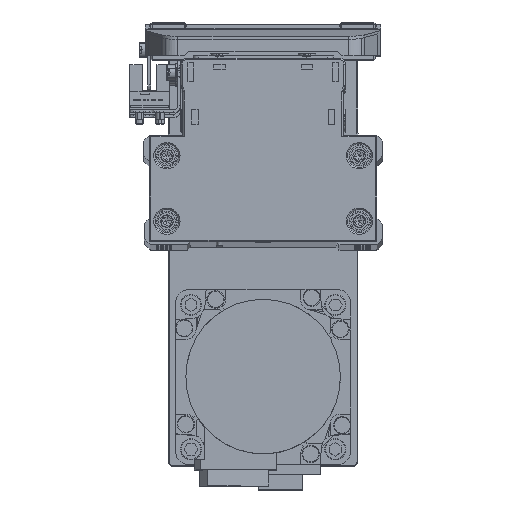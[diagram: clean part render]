
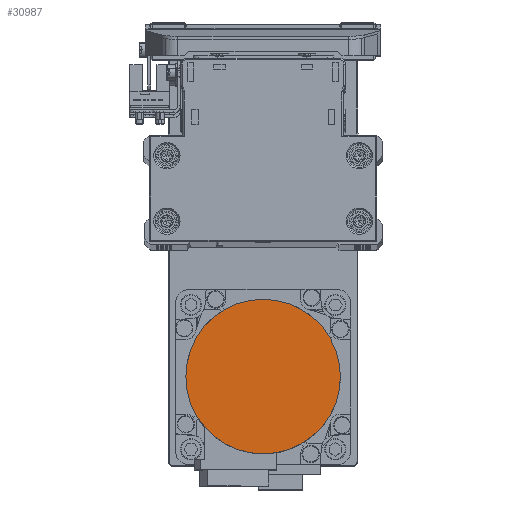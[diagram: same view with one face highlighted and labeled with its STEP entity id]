
A CAD part, top view. The second image highlights one B-rep face of the part: STEP entity #30987.
In plain terms, the highlighted planar face has unit normal (0, 0, 1) as drawn and (0, 0, -1) by its records, which use the part's own axes.
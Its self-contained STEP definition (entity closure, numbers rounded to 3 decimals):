
#216 = AXIS2_PLACEMENT_3D ( 'NONE', #21125, #33892, #5187 ) ;
#3052 = CIRCLE ( 'NONE', #26490, 26.5 ) ;
#3196 = ORIENTED_EDGE ( 'NONE', *, *, #20363, .F. ) ;
#5187 = DIRECTION ( 'NONE',  ( 1., 0., 0. ) ) ;
#6394 = CARTESIAN_POINT ( 'NONE',  ( -26.5, 0., -109.7 ) ) ;
#8349 = PLANE ( 'NONE',  #216 ) ;
#9015 = VERTEX_POINT ( 'NONE', #23605 ) ;
#9262 = ORIENTED_EDGE ( 'NONE', *, *, #23623, .F. ) ;
#10019 = AXIS2_PLACEMENT_3D ( 'NONE', #11065, #23839, #36615 ) ;
#11065 = CARTESIAN_POINT ( 'NONE',  ( 0., 0., -109.7 ) ) ;
#11324 = DIRECTION ( 'NONE',  ( 0., 0., 1. ) ) ;
#15453 = EDGE_LOOP ( 'NONE', ( #3196, #9262 ) ) ;
#20363 = EDGE_CURVE ( 'NONE', #35999, #9015, #3052, .T. ) ;
#21125 = CARTESIAN_POINT ( 'NONE',  ( 0., 0., -109.7 ) ) ;
#23605 = CARTESIAN_POINT ( 'NONE',  ( 26.5, 0., -109.7 ) ) ;
#23623 = EDGE_CURVE ( 'NONE', #9015, #35999, #28066, .T. ) ;
#23839 = DIRECTION ( 'NONE',  ( 0., 0., 1. ) ) ;
#24102 = DIRECTION ( 'NONE',  ( -1., 0., 0. ) ) ;
#26490 = AXIS2_PLACEMENT_3D ( 'NONE', #40014, #11324, #24102 ) ;
#28066 = CIRCLE ( 'NONE', #10019, 26.5 ) ;
#30987 = ADVANCED_FACE ( 'NONE', ( #37044 ), #8349, .F. ) ;
#33892 = DIRECTION ( 'NONE',  ( 0., 0., 1. ) ) ;
#35999 = VERTEX_POINT ( 'NONE', #6394 ) ;
#36615 = DIRECTION ( 'NONE',  ( 1., 0., 0. ) ) ;
#37044 = FACE_OUTER_BOUND ( 'NONE', #15453, .T. ) ;
#40014 = CARTESIAN_POINT ( 'NONE',  ( 0., 0., -109.7 ) ) ;
